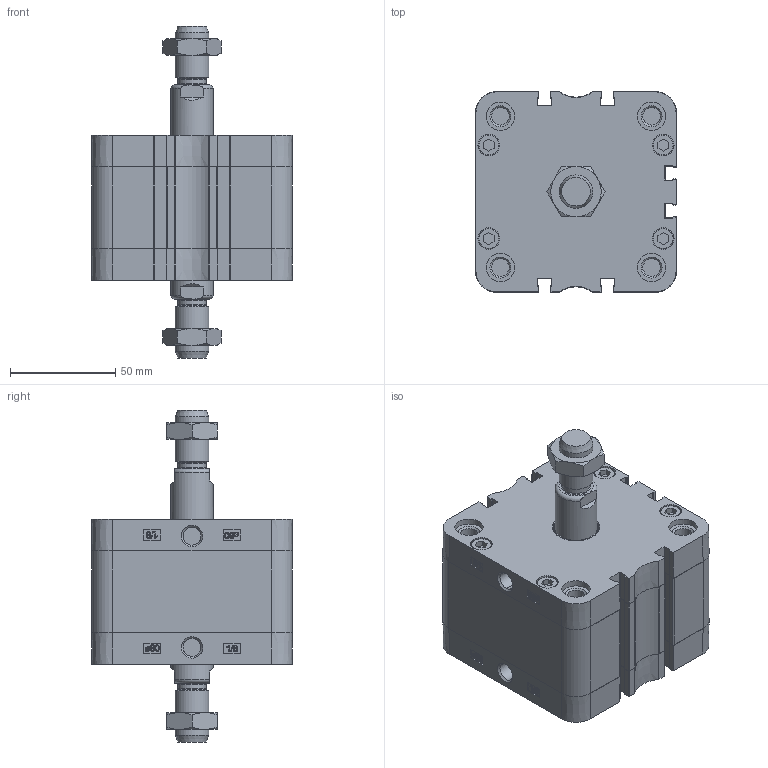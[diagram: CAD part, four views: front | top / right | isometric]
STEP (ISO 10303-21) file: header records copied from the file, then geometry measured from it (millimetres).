
FILE_DESCRIPTION(/* description */ ('Unknown'),/* implementation_level */ '2;1');
FILE_NAME(/* name */ 'ZBF 80_15',/* time_stamp */ '2024-11-20T07:51:30+01:00',/* author */ ('Unknown'),/* organization */ ('Unknown'),/* preprocessor_version */ 'ST-DEVELOPER v16.7',/* originating_system */ 'Solid Edge',/* authorisation */ 'Unknown');
FILE_SCHEMA (('AUTOMOTIVE_DESIGN {1 0 10303 214 3 1 1}'));
Length unit declared in the file: millimetre
Products named in the file (5): ZBF 80_15; Profilrohr; Kolbenstange; Mutter; Kit
Assembly tree (7 placements, depth 2):
  ZBF 80_15
    Profilrohr
    Kolbenstange  x2
    Mutter  x2
    Kit  x2
Bounding box: 95.5 x 95.5 x 158 mm (x, y, z)
Volume: 543589.6 mm3; surface area: 128464.9 mm2
Topology: 7 solids, 7 shells, 809 faces, 2109 edges, 1386 vertices
Faces by surface type: plane 366, cylinder 215, bspline 122, cone 80, torus 26
Full cylindrical faces by diameter (mm): 8.376 x8, 8.566 x2, 9.8 x8, 10.3 x8, 13.5 x10, 14.376 x2, 16 x2, 20 x2, 20.6 x2, 21.9 x2, 23 x2, 25 x2, 80 x3
Entity records: 16759 total; most frequent: CARTESIAN_POINT 3407, ORIENTED_EDGE 2292, DIRECTION 2137, EDGE_CURVE 1146, VERTEX_POINT 791, AXIS2_PLACEMENT_3D 742, LINE 653, VECTOR 653
